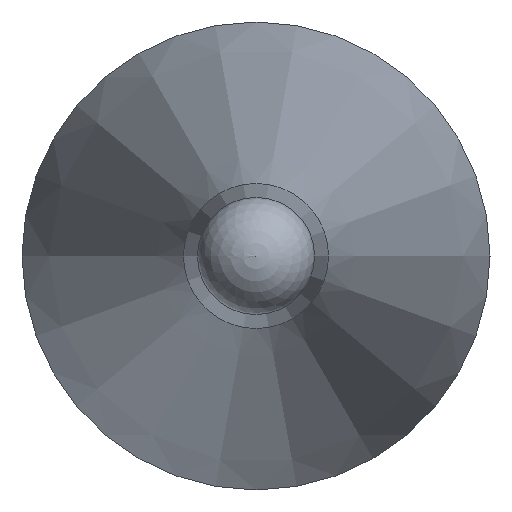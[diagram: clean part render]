
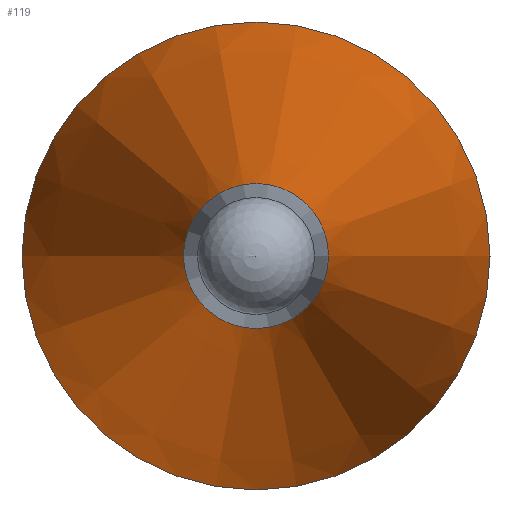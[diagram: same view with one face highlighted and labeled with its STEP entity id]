
A CAD part, left-side view. The second image highlights one B-rep face of the part: STEP entity #119.
In plain terms, the highlighted conical face has half-angle 12 degrees and reference radius 2 mm.
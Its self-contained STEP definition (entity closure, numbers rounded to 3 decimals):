
#97=CONICAL_SURFACE('',#194,2.,12.);
#106=FACE_BOUND('',#134,.T.);
#107=FACE_BOUND('',#135,.T.);
#119=ADVANCED_FACE('',(#106,#107),#97,.T.);
#134=EDGE_LOOP('',(#150));
#135=EDGE_LOOP('',(#151));
#150=ORIENTED_EDGE('',*,*,#172,.F.);
#151=ORIENTED_EDGE('',*,*,#173,.T.);
#164=VERTEX_POINT('',#249);
#165=VERTEX_POINT('',#252);
#172=EDGE_CURVE('',#164,#164,#180,.T.);
#173=EDGE_CURVE('',#165,#165,#181,.T.);
#180=CIRCLE('',#191,0.62);
#181=CIRCLE('',#193,2.);
#191=AXIS2_PLACEMENT_3D('',#248,#215,#216);
#193=AXIS2_PLACEMENT_3D('',#251,#219,#220);
#194=AXIS2_PLACEMENT_3D('',#253,#221,#222);
#215=DIRECTION('',(-1.,0.,0.));
#216=DIRECTION('',(0.,-1.,0.));
#219=DIRECTION('',(-1.,0.,0.));
#220=DIRECTION('',(0.,-1.,0.));
#221=DIRECTION('',(1.,0.,0.));
#222=DIRECTION('',(0.,1.,0.));
#248=CARTESIAN_POINT('',(7903.912,6103.288,0.));
#249=CARTESIAN_POINT('',(7903.912,6102.669,0.));
#251=CARTESIAN_POINT('',(7910.406,6103.288,0.));
#252=CARTESIAN_POINT('',(7910.406,6101.288,0.));
#253=CARTESIAN_POINT('',(7910.406,6103.288,0.));
